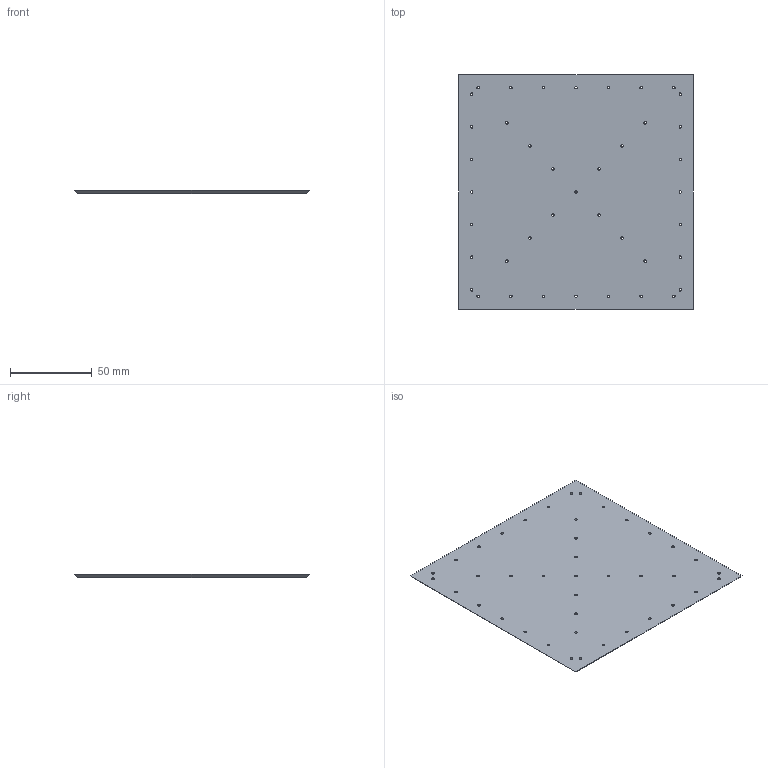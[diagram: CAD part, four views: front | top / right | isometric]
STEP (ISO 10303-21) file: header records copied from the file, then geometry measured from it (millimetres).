
FILE_DESCRIPTION (( 'STEP AP214' ), '1' );
FILE_NAME ('SC4.STEP', '2016-02-27T09:34:03', ( '' ), ( '' ), 'SwSTEP 2.0', 'SolidWorks 2012', '' );
FILE_SCHEMA (( 'AUTOMOTIVE_DESIGN' ));
Length unit declared in the file: millimetre
Products named in the file (1): SC4
Bounding box: 144 x 144 x 2 mm (x, y, z)
Volume: 40163.6 mm3; surface area: 42197 mm2
Topology: 1 solids, 1 shells, 133 faces, 381 edges, 254 vertices
Faces by surface type: cylinder 82, plane 27, bspline 24
Entity records: 5785 total; most frequent: CARTESIAN_POINT 2105, ORIENTED_EDGE 762, DIRECTION 717, EDGE_CURVE 381, AXIS2_PLACEMENT_3D 274, VERTEX_POINT 254, EDGE_LOOP 219, VECTOR 169
